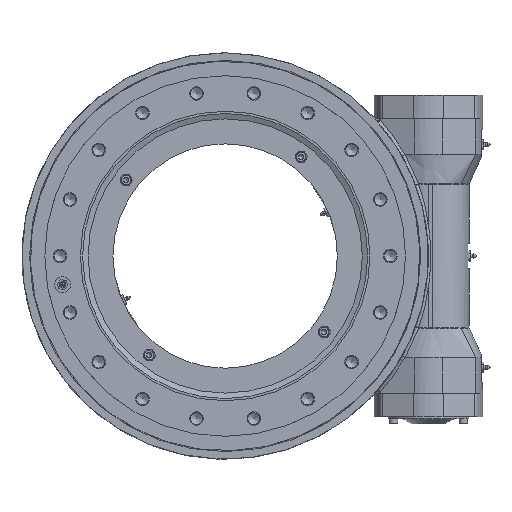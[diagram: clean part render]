
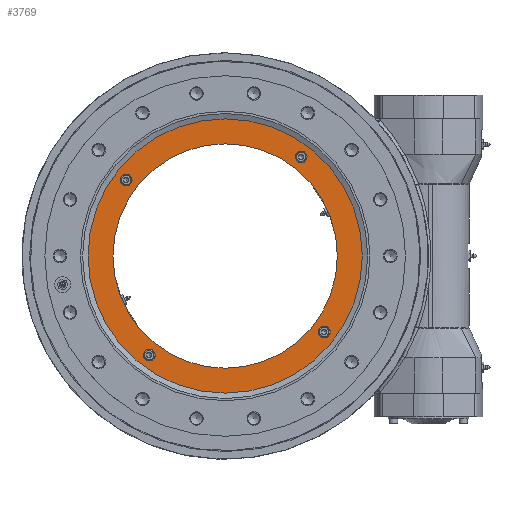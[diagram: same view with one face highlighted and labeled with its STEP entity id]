
A CAD part, left-side view. The second image highlights one B-rep face of the part: STEP entity #3769.
In plain terms, the highlighted planar face has unit normal (-1, 0, 0).
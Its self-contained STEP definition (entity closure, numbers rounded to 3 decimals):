
#707 = EDGE_LOOP ( 'NONE', ( #2749 ) ) ;
#1562 = CARTESIAN_POINT ( 'NONE',  ( -19., -89.758, 116.975 ) ) ;
#1654 = AXIS2_PLACEMENT_3D ( 'NONE', #15152, #24629, #8409 ) ;
#1766 = DIRECTION ( 'NONE',  ( 0., -1., 0. ) ) ;
#2463 = FACE_BOUND ( 'NONE', #21237, .T. ) ;
#2749 = ORIENTED_EDGE ( 'NONE', *, *, #35890, .F. ) ;
#2773 = AXIS2_PLACEMENT_3D ( 'NONE', #3324, #16192, #26099 ) ;
#2781 = CARTESIAN_POINT ( 'NONE',  ( -19., 116.975, 89.758 ) ) ;
#3324 = CARTESIAN_POINT ( 'NONE',  ( -19., -116.975, -89.758 ) ) ;
#3769 = ADVANCED_FACE ( 'NONE', ( #22209, #2463, #42189, #28386, #12076, #21695 ), #40273, .F. ) ;
#5361 = ORIENTED_EDGE ( 'NONE', *, *, #31777, .F. ) ;
#6599 = DIRECTION ( 'NONE',  ( 0., -1., 0. ) ) ;
#7459 = VERTEX_POINT ( 'NONE', #31626 ) ;
#7817 = EDGE_CURVE ( 'NONE', #30699, #30699, #27514, .T. ) ;
#8409 = DIRECTION ( 'NONE',  ( 0., 1., 0. ) ) ;
#9559 = DIRECTION ( 'NONE',  ( -1., 0., 0. ) ) ;
#10509 = VERTEX_POINT ( 'NONE', #32102 ) ;
#11529 = CIRCLE ( 'NONE', #38823, 132.5 ) ;
#12076 = FACE_OUTER_BOUND ( 'NONE', #30204, .T. ) ;
#12515 = ORIENTED_EDGE ( 'NONE', *, *, #14363, .T. ) ;
#13436 = CARTESIAN_POINT ( 'NONE',  ( -19., 0., 0. ) ) ;
#13883 = CIRCLE ( 'NONE', #1654, 171.25 ) ;
#14363 = EDGE_CURVE ( 'NONE', #20891, #20891, #11529, .T. ) ;
#14507 = VERTEX_POINT ( 'NONE', #27524 ) ;
#14699 = CIRCLE ( 'NONE', #35771, 7. ) ;
#14853 = CIRCLE ( 'NONE', #2773, 7. ) ;
#15152 = CARTESIAN_POINT ( 'NONE',  ( -19., 0., 0. ) ) ;
#15551 = AXIS2_PLACEMENT_3D ( 'NONE', #24459, #24052, #1766 ) ;
#16184 = ORIENTED_EDGE ( 'NONE', *, *, #7817, .F. ) ;
#16192 = DIRECTION ( 'NONE',  ( -1., 0., 0. ) ) ;
#19971 = DIRECTION ( 'NONE',  ( 0., 1., 0. ) ) ;
#20891 = VERTEX_POINT ( 'NONE', #20939 ) ;
#20939 = CARTESIAN_POINT ( 'NONE',  ( -19., 132.5, 0. ) ) ;
#21237 = EDGE_LOOP ( 'NONE', ( #40543 ) ) ;
#21327 = EDGE_LOOP ( 'NONE', ( #16184 ) ) ;
#21695 = FACE_BOUND ( 'NONE', #27440, .T. ) ;
#22209 = FACE_BOUND ( 'NONE', #707, .T. ) ;
#22980 = CARTESIAN_POINT ( 'NONE',  ( -19., 109.975, 89.758 ) ) ;
#23519 = EDGE_CURVE ( 'NONE', #10509, #10509, #13883, .T. ) ;
#23692 = DIRECTION ( 'NONE',  ( 1., 0., 0. ) ) ;
#23944 = AXIS2_PLACEMENT_3D ( 'NONE', #2781, #9559, #6599 ) ;
#24052 = DIRECTION ( 'NONE',  ( -1., 0., 0. ) ) ;
#24123 = DIRECTION ( 'NONE',  ( 0., 1., 0. ) ) ;
#24259 = VERTEX_POINT ( 'NONE', #40089 ) ;
#24459 = CARTESIAN_POINT ( 'NONE',  ( -19., 89.758, -116.975 ) ) ;
#24629 = DIRECTION ( 'NONE',  ( 1., 0., 0. ) ) ;
#26099 = DIRECTION ( 'NONE',  ( 0., -1., 0. ) ) ;
#27440 = EDGE_LOOP ( 'NONE', ( #12515 ) ) ;
#27514 = CIRCLE ( 'NONE', #23944, 7. ) ;
#27524 = CARTESIAN_POINT ( 'NONE',  ( -19., -96.758, 116.975 ) ) ;
#27839 = DIRECTION ( 'NONE',  ( 0., -1., 0. ) ) ;
#27843 = AXIS2_PLACEMENT_3D ( 'NONE', #30129, #23692, #24123 ) ;
#28386 = FACE_BOUND ( 'NONE', #21327, .T. ) ;
#28914 = EDGE_LOOP ( 'NONE', ( #5361 ) ) ;
#30129 = CARTESIAN_POINT ( 'NONE',  ( -19., 0., 0. ) ) ;
#30204 = EDGE_LOOP ( 'NONE', ( #30759 ) ) ;
#30284 = CIRCLE ( 'NONE', #15551, 7. ) ;
#30699 = VERTEX_POINT ( 'NONE', #22980 ) ;
#30759 = ORIENTED_EDGE ( 'NONE', *, *, #23519, .F. ) ;
#31626 = CARTESIAN_POINT ( 'NONE',  ( -19., -123.975, -89.758 ) ) ;
#31777 = EDGE_CURVE ( 'NONE', #24259, #24259, #30284, .T. ) ;
#32102 = CARTESIAN_POINT ( 'NONE',  ( -19., 171.25, 0. ) ) ;
#35771 = AXIS2_PLACEMENT_3D ( 'NONE', #1562, #40822, #27839 ) ;
#35890 = EDGE_CURVE ( 'NONE', #14507, #14507, #14699, .T. ) ;
#36173 = DIRECTION ( 'NONE',  ( 1., 0., 0. ) ) ;
#38823 = AXIS2_PLACEMENT_3D ( 'NONE', #13436, #36173, #19971 ) ;
#39427 = EDGE_CURVE ( 'NONE', #7459, #7459, #14853, .T. ) ;
#40089 = CARTESIAN_POINT ( 'NONE',  ( -19., 82.758, -116.975 ) ) ;
#40273 = PLANE ( 'NONE',  #27843 ) ;
#40543 = ORIENTED_EDGE ( 'NONE', *, *, #39427, .F. ) ;
#40822 = DIRECTION ( 'NONE',  ( -1., 0., 0. ) ) ;
#42189 = FACE_BOUND ( 'NONE', #28914, .T. ) ;
